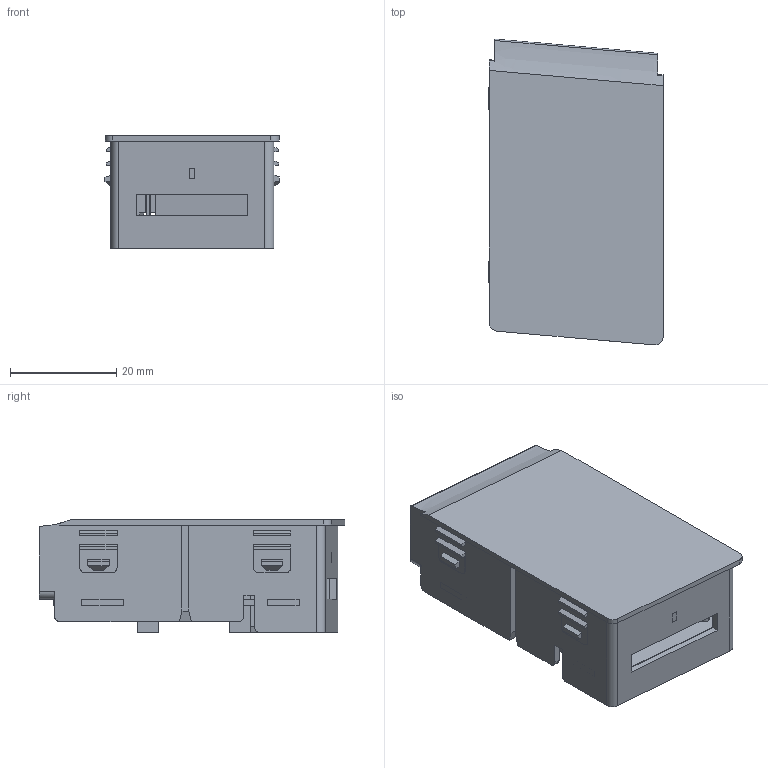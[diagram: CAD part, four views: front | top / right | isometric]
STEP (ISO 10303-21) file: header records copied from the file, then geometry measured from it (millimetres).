
FILE_DESCRIPTION(('SolidDesigner STEP Export'),'2;1');
FILE_NAME('5-LED-5P.stp','2025-02-27T14:06:41',(''),(''),'Creo Elements/Direct Modeling STEP processor for AP214 (Solid Model)','Creo Elements/Direct Modeling 20.1 10-Mar-2018 (C) Parametric Technology GmbH','');
FILE_SCHEMA(('AUTOMOTIVE_DESIGN { 1 0 10303 214 1 1 1 1 }'));
Length unit declared in the file: millimetre
Products named in the file (14): HOUSING 5P; LED light-1; CPU-5P-ASSEMBLY.1; p1; 2023_08_07_08_16_08_0253; 2023_08_07_08_16_08_0300; 2023_08_07_08_16_08_0315; 2023_08_07_08_16_08_0347; 2023_08_07_08_17_55_0682; 2023_08_07_08_17_55_0729; 2023_08_07_08_16_08_0050; KZ-PCB; MC 1.5  5-GU-3.81 P19 THR; CPU-5P-ASSEMBLY-ALL
Assembly tree (13 placements, depth 5):
  CPU-5P-ASSEMBLY-ALL
    MC 1.5  5-GU-3.81 P19 THR
      KZ-PCB
      2023_08_07_08_16_08_0050
        2023_08_07_08_17_55_0729
        2023_08_07_08_17_55_0682
        2023_08_07_08_16_08_0347
        2023_08_07_08_16_08_0315
        2023_08_07_08_16_08_0300
        2023_08_07_08_16_08_0253
          p1
    CPU-5P-ASSEMBLY.1
      LED light-1
      HOUSING 5P
Bounding box: 32.8 x 57.64 x 21.2 mm (x, y, z)
Volume: 9485.1 mm3; surface area: 15520.2 mm2
Topology: 9 solids, 9 shells, 1509 faces, 4189 edges, 2779 vertices
Faces by surface type: plane 1283, cylinder 144, cone 29, torus 20, extrusion 20, bspline 13
Entity records: 58461 total; most frequent: CARTESIAN_POINT 12044, ORIENTED_EDGE 8378, DIRECTION 7241, EDGE_CURVE 4189, VECTOR 3717, LINE 3697, VERTEX_POINT 2779, AXIS2_PLACEMENT_3D 1762
